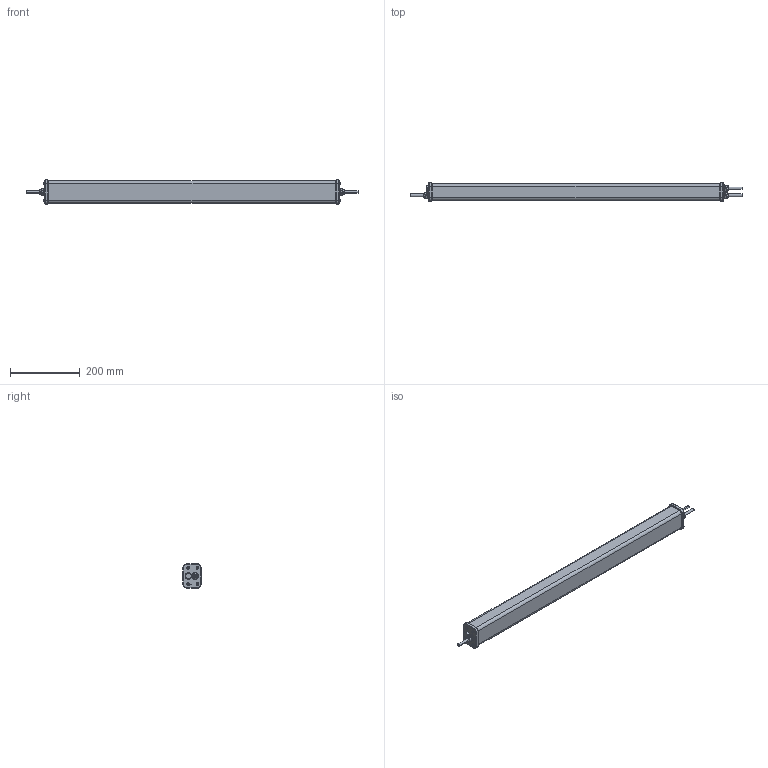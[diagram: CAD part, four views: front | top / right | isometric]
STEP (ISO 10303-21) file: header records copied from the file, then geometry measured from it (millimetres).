
FILE_DESCRIPTION (( 'STEP AP214' ), '1' );
FILE_NAME ('EFFI-FLEX2-IP69K-700-WTR.STEP', '2024-12-12T15:15:32', ( '' ), ( '' ), 'SwSTEP 2.0', 'SolidWorks 2024', '' );
FILE_SCHEMA (( 'AUTOMOTIVE_DESIGN' ));
Length unit declared in the file: millimetre
Products named in the file (1): EFFI-FLEX2-IP69K-700-WTR
Bounding box: 953.39 x 52.96 x 69.5 mm (x, y, z)
Surface area: 195040.2 mm2 (no closed solid volume)
Topology: 0 solids, 37 shells, 328 faces, 933 edges, 645 vertices
Faces by surface type: plane 119, cylinder 104, torus 50, cone 29, sphere 16, bspline 10
Entity records: 15977 total; most frequent: CARTESIAN_POINT 3929, DIRECTION 1844, ORIENTED_EDGE 1583, EDGE_CURVE 933, AXIS2_PLACEMENT_3D 768, VERTEX_POINT 645, CIRCLE 449, EDGE_LOOP 368
